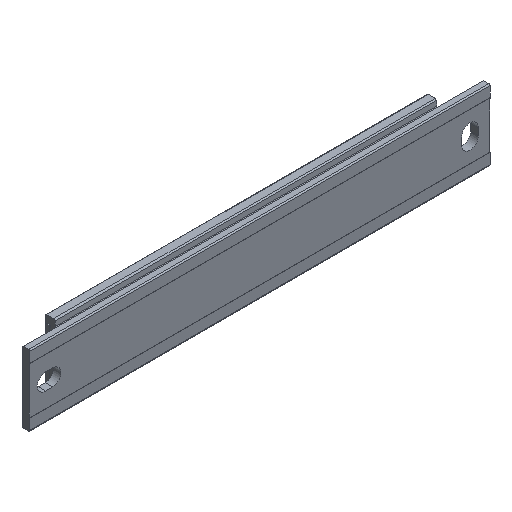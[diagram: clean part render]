
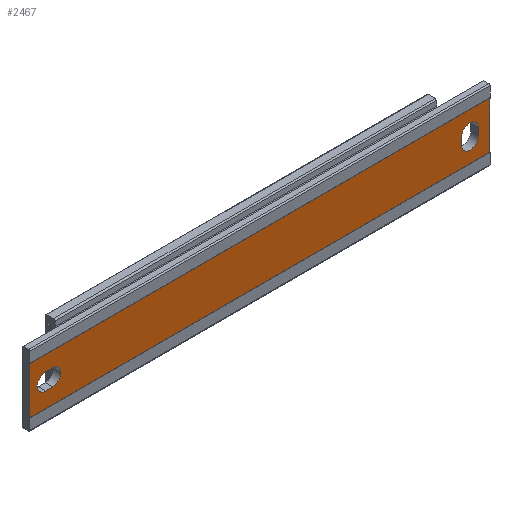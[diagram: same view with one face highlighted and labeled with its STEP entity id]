
A CAD part, isometric view. The second image highlights one B-rep face of the part: STEP entity #2467.
In plain terms, the highlighted planar face has unit normal (0, -1, 0).
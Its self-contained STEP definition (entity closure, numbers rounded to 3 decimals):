
#14 = LINE ( 'NONE', #35, #306 ) ;
#25 = CARTESIAN_POINT ( 'NONE',  ( 4.1, 0.1, -11.1 ) ) ;
#35 = CARTESIAN_POINT ( 'NONE',  ( 0., 0.1, -3. ) ) ;
#45 = DIRECTION ( 'NONE',  ( 0., 1., 0. ) ) ;
#47 = VECTOR ( 'NONE', #1654, 1000. ) ;
#64 = DIRECTION ( 'NONE',  ( 0., 1., 0. ) ) ;
#132 = VERTEX_POINT ( 'NONE', #1751 ) ;
#133 = CARTESIAN_POINT ( 'NONE',  ( 112., 0.1, -8.1 ) ) ;
#169 = AXIS2_PLACEMENT_3D ( 'NONE', #857, #64, #1988 ) ;
#217 = CARTESIAN_POINT ( 'NONE',  ( 109.9, 0.1, -3. ) ) ;
#224 = ORIENTED_EDGE ( 'NONE', *, *, #1106, .T. ) ;
#231 = DIRECTION ( 'NONE',  ( 0., 0., -1. ) ) ;
#233 = DIRECTION ( 'NONE',  ( 0., 0., 1. ) ) ;
#234 = ORIENTED_EDGE ( 'NONE', *, *, #1431, .F. ) ;
#237 = DIRECTION ( 'NONE',  ( 0., 0., -1. ) ) ;
#296 = FACE_BOUND ( 'NONE', #998, .T. ) ;
#306 = VECTOR ( 'NONE', #231, 1000. ) ;
#308 = FACE_OUTER_BOUND ( 'NONE', #2123, .T. ) ;
#319 = CIRCLE ( 'NONE', #1714, 2.1 ) ;
#344 = DIRECTION ( 'NONE',  ( -1., 0., 0. ) ) ;
#346 = LINE ( 'NONE', #1916, #2084 ) ;
#363 = DIRECTION ( 'NONE',  ( 0., 1., 0. ) ) ;
#380 = AXIS2_PLACEMENT_3D ( 'NONE', #2242, #363, #1501 ) ;
#389 = VERTEX_POINT ( 'NONE', #1397 ) ;
#425 = CARTESIAN_POINT ( 'NONE',  ( 117., 0.1, -3. ) ) ;
#493 = DIRECTION ( 'NONE',  ( 0., 0., -1. ) ) ;
#532 = ORIENTED_EDGE ( 'NONE', *, *, #743, .T. ) ;
#535 = ORIENTED_EDGE ( 'NONE', *, *, #2114, .T. ) ;
#554 = ORIENTED_EDGE ( 'NONE', *, *, #854, .T. ) ;
#564 = VECTOR ( 'NONE', #893, 1000. ) ;
#576 = ORIENTED_EDGE ( 'NONE', *, *, #1353, .T. ) ;
#586 = VERTEX_POINT ( 'NONE', #1482 ) ;
#591 = VERTEX_POINT ( 'NONE', #1746 ) ;
#625 = CARTESIAN_POINT ( 'NONE',  ( 117., 0.1, -15. ) ) ;
#636 = AXIS2_PLACEMENT_3D ( 'NONE', #1183, #45, #1367 ) ;
#653 = CARTESIAN_POINT ( 'NONE',  ( 109.9, 0.1, -8.1 ) ) ;
#663 = ORIENTED_EDGE ( 'NONE', *, *, #1006, .T. ) ;
#673 = DIRECTION ( 'NONE',  ( 0., 1., 0. ) ) ;
#705 = DIRECTION ( 'NONE',  ( 0., 0., 1. ) ) ;
#707 = ORIENTED_EDGE ( 'NONE', *, *, #1571, .T. ) ;
#743 = EDGE_CURVE ( 'NONE', #2173, #591, #2402, .T. ) ;
#802 = EDGE_CURVE ( 'NONE', #1406, #2237, #915, .T. ) ;
#822 = AXIS2_PLACEMENT_3D ( 'NONE', #133, #1668, #705 ) ;
#824 = VERTEX_POINT ( 'NONE', #1659 ) ;
#854 = EDGE_CURVE ( 'NONE', #1406, #389, #2220, .T. ) ;
#857 = CARTESIAN_POINT ( 'NONE',  ( 112., 0.1, -9.9 ) ) ;
#861 = CIRCLE ( 'NONE', #822, 2.1 ) ;
#893 = DIRECTION ( 'NONE',  ( -1., 0., 0. ) ) ;
#899 = AXIS2_PLACEMENT_3D ( 'NONE', #1951, #1139, #233 ) ;
#914 = VECTOR ( 'NONE', #1901, 1000. ) ;
#915 = LINE ( 'NONE', #2210, #2362 ) ;
#960 = VERTEX_POINT ( 'NONE', #1350 ) ;
#998 = EDGE_LOOP ( 'NONE', ( #663, #535, #1380, #2415, #532 ) ) ;
#1006 = EDGE_CURVE ( 'NONE', #591, #1878, #1363, .T. ) ;
#1051 = CARTESIAN_POINT ( 'NONE',  ( 114.1, 0.1, -9.9 ) ) ;
#1069 = LINE ( 'NONE', #1607, #2349 ) ;
#1106 = EDGE_CURVE ( 'NONE', #960, #1364, #1411, .T. ) ;
#1139 = DIRECTION ( 'NONE',  ( 0., 1., 0. ) ) ;
#1167 = ORIENTED_EDGE ( 'NONE', *, *, #802, .F. ) ;
#1183 = CARTESIAN_POINT ( 'NONE',  ( 5.9, 0.1, -9. ) ) ;
#1190 = ORIENTED_EDGE ( 'NONE', *, *, #2356, .T. ) ;
#1350 = CARTESIAN_POINT ( 'NONE',  ( 4.1, 0.1, -6.9 ) ) ;
#1353 = EDGE_CURVE ( 'NONE', #1364, #2079, #2189, .T. ) ;
#1363 = LINE ( 'NONE', #217, #914 ) ;
#1364 = VERTEX_POINT ( 'NONE', #1936 ) ;
#1367 = DIRECTION ( 'NONE',  ( 0., 0., 1. ) ) ;
#1380 = ORIENTED_EDGE ( 'NONE', *, *, #1704, .T. ) ;
#1397 = CARTESIAN_POINT ( 'NONE',  ( 0., 0.1, -3. ) ) ;
#1406 = VERTEX_POINT ( 'NONE', #425 ) ;
#1411 = LINE ( 'NONE', #1641, #47 ) ;
#1431 = EDGE_CURVE ( 'NONE', #2237, #132, #1069, .T. ) ;
#1482 = CARTESIAN_POINT ( 'NONE',  ( 112., 0.1, -6. ) ) ;
#1484 = CIRCLE ( 'NONE', #899, 2.1 ) ;
#1501 = DIRECTION ( 'NONE',  ( 1., 0., 0. ) ) ;
#1571 = EDGE_CURVE ( 'NONE', #2079, #2299, #2071, .T. ) ;
#1607 = CARTESIAN_POINT ( 'NONE',  ( 117., 0.1, -15. ) ) ;
#1622 = VECTOR ( 'NONE', #344, 1000. ) ;
#1641 = CARTESIAN_POINT ( 'NONE',  ( 117., 0.1, -6.9 ) ) ;
#1654 = DIRECTION ( 'NONE',  ( 1., 0., 0. ) ) ;
#1659 = CARTESIAN_POINT ( 'NONE',  ( 114.1, 0.1, -8.1 ) ) ;
#1668 = DIRECTION ( 'NONE',  ( 0., 1., 0. ) ) ;
#1675 = EDGE_CURVE ( 'NONE', #824, #2173, #346, .T. ) ;
#1704 = EDGE_CURVE ( 'NONE', #586, #824, #861, .T. ) ;
#1714 = AXIS2_PLACEMENT_3D ( 'NONE', #2358, #673, #2168 ) ;
#1746 = CARTESIAN_POINT ( 'NONE',  ( 109.9, 0.1, -9.9 ) ) ;
#1751 = CARTESIAN_POINT ( 'NONE',  ( 0., 0.1, -15. ) ) ;
#1830 = DIRECTION ( 'NONE',  ( -1., 0., 0. ) ) ;
#1878 = VERTEX_POINT ( 'NONE', #653 ) ;
#1901 = DIRECTION ( 'NONE',  ( 0., 0., 1. ) ) ;
#1916 = CARTESIAN_POINT ( 'NONE',  ( 114.1, 0.1, -3. ) ) ;
#1936 = CARTESIAN_POINT ( 'NONE',  ( 5.9, 0.1, -6.9 ) ) ;
#1951 = CARTESIAN_POINT ( 'NONE',  ( 4.1, 0.1, -9. ) ) ;
#1988 = DIRECTION ( 'NONE',  ( 0., 0., 1. ) ) ;
#2024 = FACE_BOUND ( 'NONE', #2348, .T. ) ;
#2042 = CARTESIAN_POINT ( 'NONE',  ( 117., 0.1, -3. ) ) ;
#2068 = ORIENTED_EDGE ( 'NONE', *, *, #2081, .T. ) ;
#2071 = LINE ( 'NONE', #2224, #564 ) ;
#2079 = VERTEX_POINT ( 'NONE', #2097 ) ;
#2081 = EDGE_CURVE ( 'NONE', #2299, #960, #1484, .T. ) ;
#2084 = VECTOR ( 'NONE', #237, 1000. ) ;
#2097 = CARTESIAN_POINT ( 'NONE',  ( 5.9, 0.1, -11.1 ) ) ;
#2114 = EDGE_CURVE ( 'NONE', #1878, #586, #319, .T. ) ;
#2123 = EDGE_LOOP ( 'NONE', ( #1190, #234, #1167, #554 ) ) ;
#2168 = DIRECTION ( 'NONE',  ( 0., 0., 1. ) ) ;
#2173 = VERTEX_POINT ( 'NONE', #1051 ) ;
#2189 = CIRCLE ( 'NONE', #636, 2.1 ) ;
#2210 = CARTESIAN_POINT ( 'NONE',  ( 117., 0.1, -3. ) ) ;
#2220 = LINE ( 'NONE', #2042, #1622 ) ;
#2224 = CARTESIAN_POINT ( 'NONE',  ( 117., 0.1, -11.1 ) ) ;
#2237 = VERTEX_POINT ( 'NONE', #625 ) ;
#2242 = CARTESIAN_POINT ( 'NONE',  ( 117., 0.1, -3. ) ) ;
#2299 = VERTEX_POINT ( 'NONE', #25 ) ;
#2348 = EDGE_LOOP ( 'NONE', ( #224, #576, #707, #2068 ) ) ;
#2349 = VECTOR ( 'NONE', #1830, 1000. ) ;
#2355 = PLANE ( 'NONE',  #380 ) ;
#2356 = EDGE_CURVE ( 'NONE', #389, #132, #14, .T. ) ;
#2358 = CARTESIAN_POINT ( 'NONE',  ( 112., 0.1, -8.1 ) ) ;
#2362 = VECTOR ( 'NONE', #493, 1000. ) ;
#2402 = CIRCLE ( 'NONE', #169, 2.1 ) ;
#2415 = ORIENTED_EDGE ( 'NONE', *, *, #1675, .T. ) ;
#2467 = ADVANCED_FACE ( 'NONE', ( #296, #2024, #308 ), #2355, .F. ) ;
